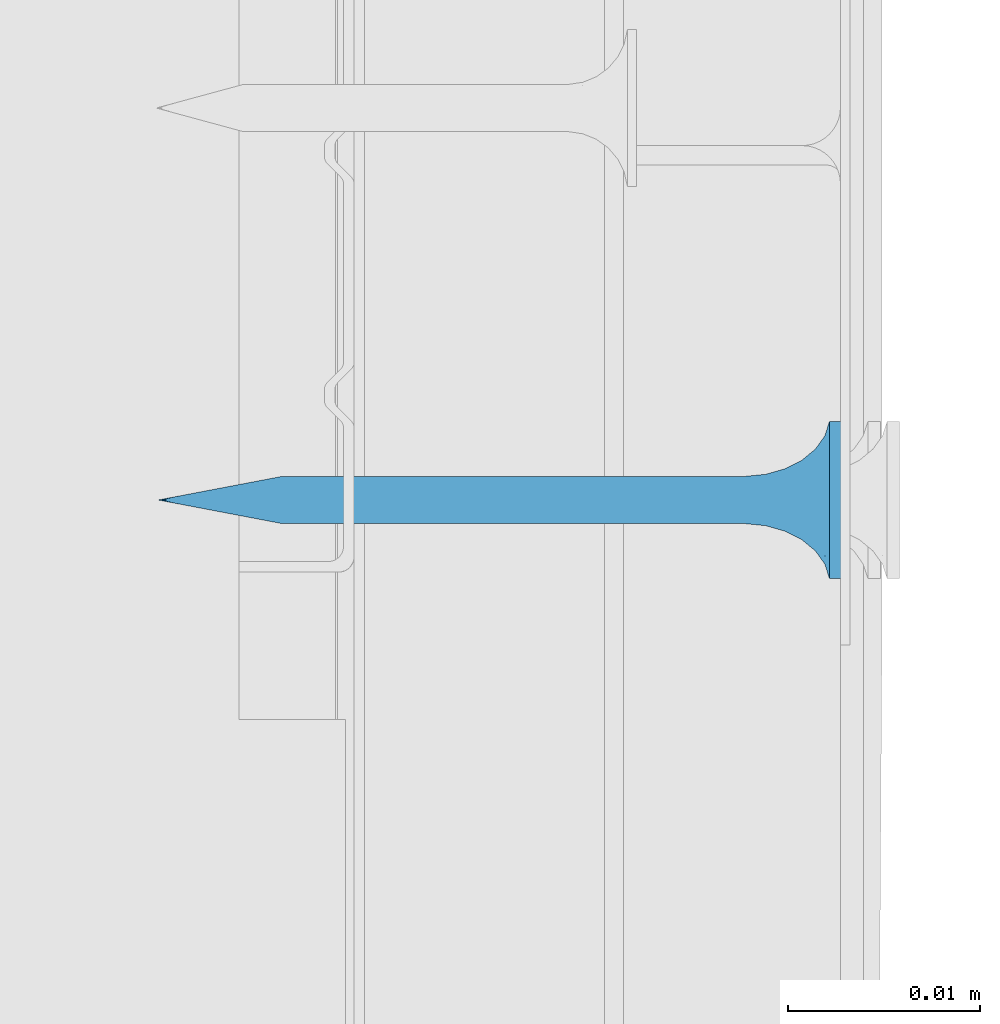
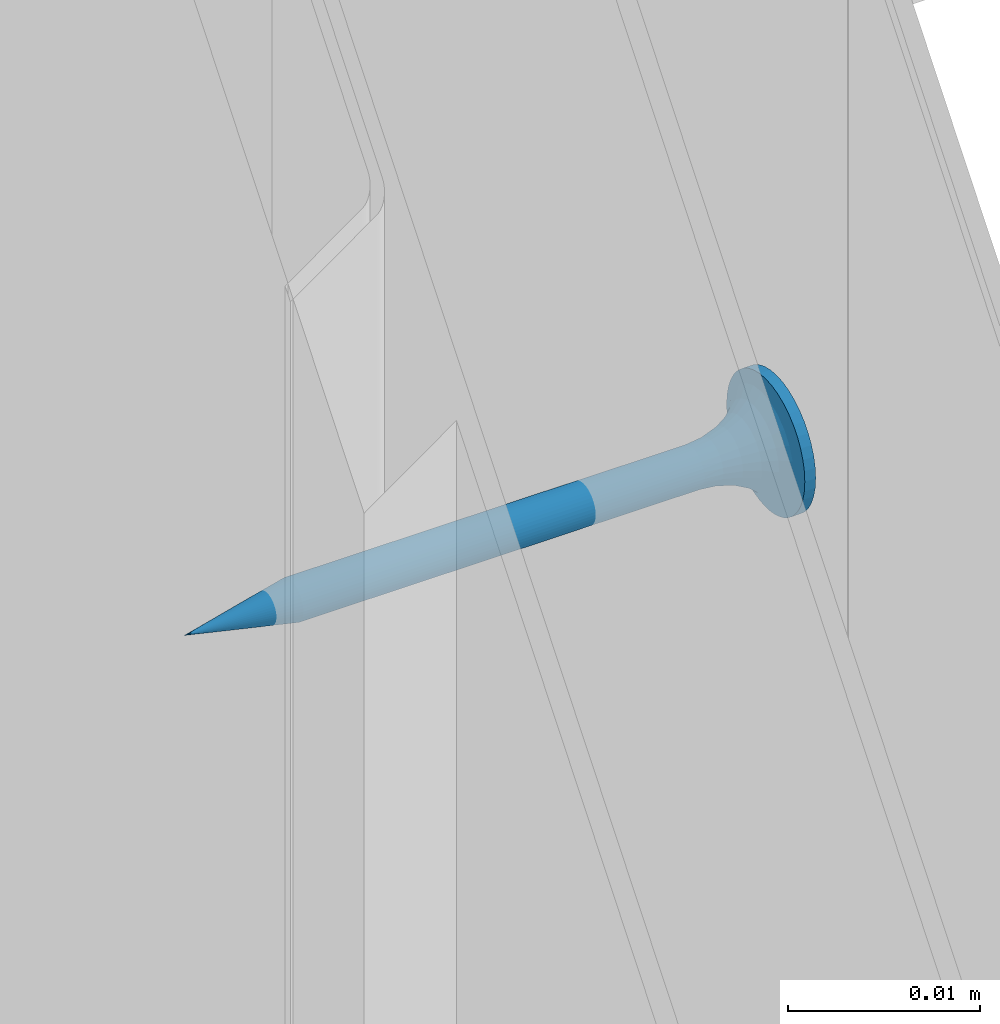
# One storey, part 53 of 89: 1 wall.
"""IFC2X3 building model written with IfcOpenShell, lengths in millimetres."""

from ifc_helpers import new_model, entity, si_unit, converted_unit, direction, frame, origin, origin_with_axes, place, context, project, spatial, faceted_brep, element, save


model = new_model("IFC2X3")

# Units and contexts
model_context = context("Model", 3, precision=1e-05, world=origin(), true_north=direction((0.0, 1.0, 0.0)))
ifc_project = project(units=[si_unit("LENGTHUNIT", "METRE", prefix="MILLI"), si_unit("AREAUNIT", "SQUARE_METRE"), si_unit("VOLUMEUNIT", "CUBIC_METRE"), converted_unit("PLANEANGLEUNIT", "DEGREE", entity("IfcPlaneAngleMeasure", 0.01745), si_unit("PLANEANGLEUNIT", "RADIAN"), dimensions=[0, 0, 0, 0, 0, 0, 0]), si_unit("SOLIDANGLEUNIT", "STERADIAN"), si_unit("MASSUNIT", "GRAM"), si_unit("TIMEUNIT", "SECOND"), si_unit("THERMODYNAMICTEMPERATUREUNIT", "DEGREE_CELSIUS"), si_unit("LUMINOUSINTENSITYUNIT", "LUMEN")], contexts=[model_context])

# Site, building, storey
site_placement = place(None, origin_with_axes())
site = spatial("IfcSite", under=ifc_project, at=site_placement, Name="Default Site", CompositionType="ELEMENT")
building_placement = place(site_placement, origin_with_axes())
building = spatial("IfcBuilding", under=site, at=building_placement, Name="Default Building", CompositionType="ELEMENT")
storey_placement = place(building_placement, origin_with_axes())
storey = spatial("IfcBuildingStorey", under=building, at=storey_placement, Name="Default Building Storey", CompositionType="ELEMENT", Elevation=0.0)

# Wall
wall_placement = place(storey_placement, frame((-1966.90239238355, 1534.934940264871, -73.15795859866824), z_axis=(0.0, 0.0, 1.0), x_axis=(3.748251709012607e-13, 1.0, 0.0)))
element("IfcWall", 1, at=wall_placement, inside=storey, Name="Wkręt RIGIPS TN 35", context=model_context, shape_type="Brep", body=[
    faceted_brep([(-138.5557071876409, -4828.206294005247, 555.2413100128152), (-138.5557071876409, -4804.093757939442, 555.2413100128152), (-138.6296059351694, -4804.093757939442, 555.4197173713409), (-138.6296059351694, -4828.206294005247, 555.4197173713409), (-138.329396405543, -4828.206294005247, 554.9298199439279), (-138.329396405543, -4804.093757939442, 554.9298199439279), (-138.4548091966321, -4804.093757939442, 555.0766594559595), (-138.4548091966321, -4828.206294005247, 555.0766594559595), (-137.0789337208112, -4828.206294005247, 556.9703895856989), (-137.0789337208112, -4804.093757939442, 556.9703895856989), (-136.9005263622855, -4804.093757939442, 556.8964908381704), (-136.9005263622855, -4828.206294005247, 556.8964908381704), (-138.6296059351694, -4804.093757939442, 556.1802826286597), (-138.6296059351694, -4828.206294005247, 556.1802826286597), (-138.6746858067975, -4828.206294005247, 555.9925114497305), (-138.6746858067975, -4804.093757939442, 555.9925114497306), (-138.0179063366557, -4828.206294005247, 554.7035091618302), (-138.0179063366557, -4804.093757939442, 554.7035091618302), (-138.1825568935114, -4804.093757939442, 554.8044071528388), (-138.1825568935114, -4828.206294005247, 554.8044071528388), (-137.83949897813, -4828.206294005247, 554.6296104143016), (-137.83949897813, -4804.093757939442, 554.6296104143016), (-137.4592163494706, -4804.093757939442, 554.5693795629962), (-137.4592163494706, -4828.206294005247, 554.5693795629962), (-137.2667048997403, -4828.206294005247, 554.5845305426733), (-137.2667048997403, -4804.093757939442, 554.5845305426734), (-136.9005263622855, -4804.093757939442, 554.7035091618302), (-136.9005263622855, -4828.206294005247, 554.7035091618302), (-136.7358758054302, -4828.206294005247, 554.8044071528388), (-136.7358758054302, -4804.093757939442, 554.8044071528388), (-138.0179063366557, -4828.206294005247, 556.8964908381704), (-138.0179063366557, -4804.093757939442, 556.8964908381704), (-137.83949897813, -4804.093757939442, 556.9703895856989), (-137.83949897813, -4828.206294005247, 556.9703895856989), (-136.3627255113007, -4828.206294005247, 556.3586899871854), (-136.3627255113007, -4804.093757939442, 556.3586899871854), (-136.2888267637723, -4804.093757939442, 556.1802826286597), (-136.2888267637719, -4828.206294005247, 556.1802826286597), (-138.329396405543, -4828.206294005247, 556.6701800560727), (-138.329396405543, -4804.093757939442, 556.6701800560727), (-138.1825568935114, -4804.093757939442, 556.7955928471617), (-138.1825568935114, -4828.206294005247, 556.7955928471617), (-138.6746858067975, -4804.093757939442, 555.60748855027), (-138.6746858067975, -4828.206294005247, 555.60748855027), (-137.2667048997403, -4828.206294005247, 557.0154694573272), (-137.2667048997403, -4804.093757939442, 557.0154694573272), (-136.2888267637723, -4804.093757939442, 555.4197173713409), (-136.2888267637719, -4828.206294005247, 555.4197173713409), (-136.2437468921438, -4828.206294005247, 555.60748855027), (-136.2437468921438, -4804.093757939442, 555.60748855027), (-136.5890362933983, -4828.206294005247, 554.9298199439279), (-136.5890362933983, -4804.093757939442, 554.9298199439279), (-137.651727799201, -4828.206294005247, 554.5845305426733), (-137.651727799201, -4804.093757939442, 554.5845305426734), (-136.4636235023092, -4828.206294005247, 555.0766594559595), (-136.4636235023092, -4804.093757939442, 555.0766594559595), (-136.7358758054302, -4804.093757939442, 556.7955928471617), (-136.7358758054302, -4828.206294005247, 556.7955928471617), (-136.3627255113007, -4804.093757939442, 555.2413100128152), (-136.3627255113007, -4828.206294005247, 555.2413100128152), (-136.2437468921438, -4828.206294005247, 555.9925114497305), (-136.2437468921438, -4804.093757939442, 555.9925114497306), (-136.2285959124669, -4804.093757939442, 555.8000000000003), (-136.2285959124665, -4828.206294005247, 555.8000000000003), (-138.6898367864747, -4828.206294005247, 555.8000000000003), (-138.6898367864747, -4804.093757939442, 555.8000000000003), (-136.5890362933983, -4828.206294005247, 556.6701800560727), (-136.5890362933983, -4804.093757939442, 556.6701800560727), (-136.4636235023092, -4804.093757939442, 556.5233405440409), (-136.4636235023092, -4828.206294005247, 556.5233405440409), (-137.0789337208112, -4804.093757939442, 554.6296104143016), (-137.0789337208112, -4828.206294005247, 554.6296104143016), (-137.4592163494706, -4804.093757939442, 557.0306204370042), (-137.4592163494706, -4828.206294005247, 557.0306204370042), (-137.651727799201, -4828.206294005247, 557.0154694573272), (-137.651727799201, -4804.093757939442, 557.0154694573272), (-138.5557071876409, -4804.093757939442, 556.3586899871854), (-138.5557071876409, -4828.206294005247, 556.3586899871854), (-138.4548091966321, -4828.206294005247, 556.5233405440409), (-138.4548091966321, -4804.093757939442, 556.5233405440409), (-141.5377463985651, -4832.598051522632, 555.8000000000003), (-141.5377463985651, -4833.259713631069, 555.8000000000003), (-141.4875329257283, -4833.259713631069, 555.1619773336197), (-141.4875329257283, -4832.598051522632, 555.1619773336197), (-141.3381289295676, -4833.259713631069, 554.5396649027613), (-141.3381289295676, -4832.598051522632, 554.5396649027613), (-141.0932132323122, -4833.259713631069, 553.9483861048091), (-141.0932132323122, -4832.598051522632, 553.9483861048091), (-140.7588164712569, -4833.259713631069, 553.4027001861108), (-140.7588164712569, -4832.598051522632, 553.4027001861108), (-140.3431726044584, -4833.259713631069, 552.9160437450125), (-140.4541727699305, -4832.598051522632, 553.0314907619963), (-140.1080097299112, -4832.598051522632, 552.6986614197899), (-139.8565161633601, -4833.259713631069, 552.500399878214), (-139.7251262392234, -4832.598051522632, 552.4088262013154), (-139.3108302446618, -4833.259713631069, 552.1660031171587), (-139.3108302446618, -4832.598051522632, 552.1660031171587), (-138.8708651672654, -4832.598051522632, 551.9735584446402), (-138.7195514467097, -4833.259713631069, 551.9210874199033), (-138.4113302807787, -4832.598051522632, 551.8341600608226), (-137.9385961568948, -4832.598051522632, 551.7497404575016), (-138.0972390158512, -4833.259713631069, 551.7716834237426), (-137.4592163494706, -4833.259713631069, 551.7214699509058), (-137.4592163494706, -4832.598051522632, 551.7214699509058), (-136.8211936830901, -4833.259713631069, 551.7716834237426), (-136.8211936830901, -4832.598051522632, 551.7716834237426), (-136.1988812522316, -4833.259713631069, 551.9210874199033), (-136.1988812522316, -4832.598051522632, 551.9210874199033), (-135.6076024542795, -4833.259713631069, 552.1660031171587), (-135.6076024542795, -4832.598051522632, 552.1660031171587), (-135.0619165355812, -4833.259713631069, 552.500399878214), (-135.0619165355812, -4832.598051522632, 552.500399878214), (-134.5752600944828, -4833.259713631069, 552.9160437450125), (-134.5752600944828, -4832.598051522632, 552.9160437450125), (-134.1596162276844, -4833.259713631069, 553.4027001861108), (-134.1596162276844, -4832.598051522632, 553.4027001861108), (-133.8252194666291, -4833.259713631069, 553.9483861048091), (-133.8252194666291, -4832.598051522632, 553.9483861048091), (-133.5803037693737, -4833.259713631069, 554.5396649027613), (-133.5803037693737, -4832.598051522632, 554.5396649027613), (-133.430899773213, -4833.259713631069, 556.4380226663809), (-133.430899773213, -4832.598051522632, 556.4380226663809), (-133.3806863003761, -4832.598051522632, 555.8000000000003), (-133.3806863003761, -4833.259713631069, 555.8000000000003), (-133.430899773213, -4832.598051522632, 555.1619773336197), (-133.430899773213, -4833.259713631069, 555.1619773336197), (-133.5803037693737, -4833.259713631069, 557.0603350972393), (-133.5803037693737, -4832.598051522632, 557.0603350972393), (-133.8252194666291, -4833.259713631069, 557.6516138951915), (-133.8252194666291, -4832.598051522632, 557.6516138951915), (-134.1596162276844, -4833.259713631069, 558.1972998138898), (-134.1596162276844, -4832.598051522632, 558.1972998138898), (-134.5752600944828, -4833.259713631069, 558.6839562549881), (-134.5752600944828, -4832.598051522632, 558.6839562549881), (-135.0619165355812, -4833.259713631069, 559.0996001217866), (-135.0619165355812, -4832.598051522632, 559.0996001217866), (-135.6076024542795, -4833.259713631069, 559.4339968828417), (-135.6076024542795, -4832.598051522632, 559.4339968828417), (-136.1988812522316, -4833.259713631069, 559.6789125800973), (-136.1988812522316, -4832.598051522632, 559.6789125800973), (-136.8211936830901, -4833.259713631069, 559.8283165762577), (-136.8211936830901, -4832.598051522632, 559.8283165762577), (-137.4592163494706, -4833.259713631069, 559.8785300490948), (-137.4592163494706, -4832.598051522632, 559.8785300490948), (-138.0972390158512, -4833.259713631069, 559.8283165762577), (-138.0972390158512, -4832.598051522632, 559.8283165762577), (-138.7195514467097, -4833.259713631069, 559.6789125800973), (-138.7195514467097, -4832.598051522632, 559.6789125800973), (-139.3108302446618, -4833.259713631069, 559.4339968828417), (-139.3108302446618, -4832.598051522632, 559.4339968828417), (-139.8565161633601, -4833.259713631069, 559.0996001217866), (-139.8565161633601, -4832.598051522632, 559.0996001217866), (-140.3431726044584, -4833.259713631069, 558.6839562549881), (-140.3431726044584, -4832.598051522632, 558.6839562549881), (-140.7588164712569, -4833.259713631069, 558.1972998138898), (-140.7588164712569, -4832.598051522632, 558.1972998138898), (-141.0932132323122, -4833.259713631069, 557.6516138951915), (-141.0932132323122, -4832.598051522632, 557.6516138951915), (-141.3381289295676, -4833.259713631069, 557.0603350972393), (-141.3381289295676, -4832.598051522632, 557.0603350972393), (-141.4875329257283, -4833.259713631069, 556.4380226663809), (-141.4875329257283, -4832.598051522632, 556.4380226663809), (-137.8060615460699, -4829.281368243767, 554.5055560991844), (-137.4592163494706, -4829.281368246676, 554.4598930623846), (-138.1292698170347, -4829.281368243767, 554.6394333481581), (-138.4068150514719, -4829.281368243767, 554.8524012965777), (-138.6197830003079, -4829.281368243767, 555.1299465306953), (-138.7536602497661, -4829.281368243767, 555.4531548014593), (-138.7993232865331, -4829.281368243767, 555.7999999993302), (-138.753660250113, -4829.281368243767, 556.1468451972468), (-138.6197830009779, -4829.281368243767, 556.4700534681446), (-138.4068150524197, -4829.281368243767, 556.7475987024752), (-138.1292698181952, -4829.281368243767, 556.9605666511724), (-137.8060615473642, -4829.281368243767, 557.0944439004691), (-137.4592163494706, -4829.281368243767, 557.1401069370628), (-137.112371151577, -4829.281368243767, 557.0944439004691), (-136.7891628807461, -4829.281368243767, 556.9605666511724), (-136.5116176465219, -4829.281368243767, 556.7475987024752), (-136.2986496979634, -4829.281368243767, 556.4700534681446), (-136.1647724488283, -4829.281368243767, 556.1468451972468), (-136.1191094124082, -4829.281368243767, 555.7999999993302), (-136.1647724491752, -4829.281368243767, 555.4531548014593), (-136.2986496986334, -4829.281368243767, 555.1299465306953), (-136.5116176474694, -4829.281368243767, 554.8524012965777), (-136.7891628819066, -4829.281368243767, 554.6394333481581), (-137.1123711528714, -4829.281368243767, 554.5055560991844), (-137.4592163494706, -4830.288222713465, 554.1737111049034), (-137.8801308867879, -4830.288222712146, 554.229125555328), (-138.2723607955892, -4830.288222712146, 554.3915925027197), (-138.6091762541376, -4830.288222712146, 554.6500400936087), (-138.8676238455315, -4830.288222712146, 554.9868555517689), (-139.0300907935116, -4830.288222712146, 555.3790854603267), (-139.0855052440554, -4830.288222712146, 555.7999999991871), (-139.0300907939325, -4830.288222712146, 556.220914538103), (-138.8676238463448, -4830.288222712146, 556.6131444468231), (-138.6091762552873, -4830.288222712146, 556.9499599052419), (-138.2723607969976, -4830.288222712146, 557.2084074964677), (-137.8801308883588, -4830.288222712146, 557.3708744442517), (-137.4592163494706, -4830.288222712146, 557.426288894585), (-137.0383018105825, -4830.288222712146, 557.3708744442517), (-136.6460719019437, -4830.288222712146, 557.2084074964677), (-136.309256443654, -4830.288222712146, 556.9499599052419), (-136.0508088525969, -4830.288222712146, 556.6131444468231), (-135.8883419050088, -4830.288222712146, 556.220914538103), (-135.8329274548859, -4830.288222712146, 555.7999999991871), (-135.8883419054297, -4830.288222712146, 555.3790854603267), (-136.0508088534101, -4830.288222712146, 554.9868555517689), (-136.309256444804, -4830.288222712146, 554.6500400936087), (-136.6460719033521, -4830.288222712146, 554.3915925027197), (-137.0383018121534, -4830.288222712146, 554.229125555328), (-137.4592163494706, -4831.168773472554, 553.7273431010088), (-137.9956594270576, -4831.168773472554, 553.7979671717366), (-138.4955447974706, -4831.168773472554, 554.0050264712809), (-138.9248060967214, -4831.168773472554, 554.3344102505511), (-139.2541898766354, -4831.168773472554, 554.763671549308), (-139.4612491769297, -4831.168773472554, 555.2635569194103), (-139.5318732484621, -4831.168773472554, 555.799999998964), (-139.461249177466, -4831.168773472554, 556.3364430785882), (-139.2541898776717, -4831.168773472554, 556.8363284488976), (-138.9248060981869, -4831.168773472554, 557.2655897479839), (-138.4955447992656, -4831.168773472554, 557.594973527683), (-137.9956594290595, -4831.168773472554, 557.8020328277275), (-137.4592163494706, -4831.168773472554, 557.8726568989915), (-136.9227732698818, -4831.168773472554, 557.8020328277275), (-136.4228878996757, -4831.168773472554, 557.594973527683), (-135.9936266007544, -4831.168773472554, 557.2655897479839), (-135.6642428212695, -4831.168773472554, 556.8363284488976), (-135.4571835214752, -4831.168773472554, 556.3364430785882), (-135.3865594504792, -4831.168773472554, 555.799999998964), (-135.4571835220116, -4831.168773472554, 555.2635569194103), (-135.6642428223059, -4831.168773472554, 554.763671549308), (-135.9936266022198, -4831.168773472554, 554.3344102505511), (-136.4228879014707, -4831.168773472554, 554.0050264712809), (-136.9227732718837, -4831.168773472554, 553.7979671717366), (-137.4592163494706, -4831.872222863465, 553.1465393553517), (-138.1459824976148, -4831.872222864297, 553.2369538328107), (-138.7859466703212, -4831.872222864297, 553.5020356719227), (-139.3354963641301, -4831.872222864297, 553.9237199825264), (-139.7571806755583, -4831.872222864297, 554.4732696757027), (-140.02226251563, -4831.872222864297, 555.1132338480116), (-140.1126769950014, -4831.872222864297, 555.7999999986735), (-140.0222625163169, -4831.872222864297, 556.4867661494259), (-139.7571806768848, -4831.872222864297, 557.1267303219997), (-139.3354963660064, -4831.872222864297, 557.6762800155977), (-138.785946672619, -4831.872222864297, 558.097964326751), (-138.1459825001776, -4831.872222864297, 558.363046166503), (-137.4592163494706, -4831.872222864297, 558.4534606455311), (-136.7724501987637, -4831.872222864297, 558.363046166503), (-136.1324860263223, -4831.872222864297, 558.097964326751), (-135.5829363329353, -4831.872222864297, 557.6762800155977), (-135.1612520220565, -4831.872222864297, 557.1267303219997), (-134.8961701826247, -4831.872222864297, 556.4867661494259), (-134.8057557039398, -4831.872222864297, 555.7999999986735), (-134.8961701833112, -4831.872222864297, 555.1132338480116), (-135.161252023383, -4831.872222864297, 554.4732696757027), (-135.5829363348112, -4831.872222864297, 553.9237199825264), (-136.1324860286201, -4831.872222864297, 553.5020356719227), (-136.7724502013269, -4831.872222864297, 553.2369538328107), (-137.4592163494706, -4832.357989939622, 552.4648055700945), (-138.3224281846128, -4832.357989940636, 552.578449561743), (-139.1268135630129, -4832.357989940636, 552.9116368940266), (-139.8175549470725, -4832.357989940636, 553.4416613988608), (-140.3475794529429, -4832.357989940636, 554.1324027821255), (-140.6807667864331, -4832.357989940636, 554.936788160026), (-140.7944107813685, -4832.357989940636, 555.7999999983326), (-140.6807667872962, -4832.357989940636, 556.663211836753), (-140.3475794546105, -4832.357989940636, 557.4675972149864), (-139.817554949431, -4832.357989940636, 558.1583385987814), (-139.1268135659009, -4832.357989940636, 558.6883631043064), (-138.3224281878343, -4832.357989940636, 559.0215504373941), (-137.4592163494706, -4832.357989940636, 559.1351944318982), (-136.5960045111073, -4832.357989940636, 559.0215504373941), (-135.7916191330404, -4832.357989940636, 558.6883631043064), (-135.1008777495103, -4832.357989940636, 558.1583385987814), (-134.5708532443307, -4832.357989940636, 557.4675972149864), (-134.2376659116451, -4832.357989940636, 556.663211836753), (-134.1240219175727, -4832.357989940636, 555.7999999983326), (-134.2376659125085, -4832.357989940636, 554.936788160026), (-134.5708532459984, -4832.357989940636, 554.1324027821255), (-135.1008777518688, -4832.357989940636, 553.4416613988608), (-135.7916191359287, -4832.357989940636, 552.9116368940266), (-136.5960045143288, -4832.357989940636, 552.578449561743), (-137.4592163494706, -4797.627063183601, 555.8000000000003), (-139.9592163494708, -4833.259713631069, 556.3000000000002), (-137.9592163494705, -4833.259713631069, 556.3000000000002), (-139.9592163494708, -4833.259713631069, 555.3000000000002), (-137.9592163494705, -4833.259713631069, 555.3000000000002), (-137.9592163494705, -4833.259713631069, 553.3000000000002), (-136.9592163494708, -4833.259713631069, 553.3000000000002), (-136.9592163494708, -4833.259713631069, 555.3000000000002), (-134.9592163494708, -4833.259713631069, 555.3000000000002), (-134.9592163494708, -4833.259713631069, 556.3000000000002), (-136.9592163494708, -4833.259713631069, 556.3000000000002), (-136.9592163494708, -4833.259713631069, 558.3000000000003), (-137.9592163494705, -4833.259713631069, 558.3000000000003), (-136.9592163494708, -4831.988379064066, 556.3000000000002), (-134.9592163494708, -4831.988379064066, 556.3000000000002), (-134.9592163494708, -4831.988379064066, 555.3000000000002), (-136.9592163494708, -4831.988379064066, 555.3000000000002), (-136.9592163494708, -4831.988379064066, 553.3000000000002), (-137.9592163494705, -4831.988379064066, 553.3000000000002), (-137.9592163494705, -4831.988379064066, 555.3000000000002), (-139.9592163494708, -4831.988379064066, 555.3000000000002), (-139.9592163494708, -4831.988379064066, 556.3000000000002), (-137.9592163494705, -4831.988379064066, 556.3000000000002), (-137.9592163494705, -4831.988379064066, 558.3000000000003), (-136.9592163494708, -4831.988379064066, 558.3000000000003)], [[[0, 1, 2, 3]], [[4, 5, 6, 7]], [[8, 9, 10, 11]], [[12, 13, 14, 15]], [[1, 0, 7, 6]], [[16, 17, 18, 19]], [[20, 21, 17, 16]], [[22, 23, 24, 25]], [[26, 27, 28, 29]], [[30, 31, 32, 33]], [[34, 35, 36, 37]], [[38, 39, 40, 41]], [[3, 2, 42, 43]], [[9, 8, 44, 45]], [[46, 47, 48, 49]], [[50, 51, 29, 28]], [[5, 4, 19, 18]], [[21, 20, 52, 53]], [[23, 22, 53, 52]], [[51, 50, 54, 55]], [[11, 10, 56, 57]], [[47, 46, 58, 59]], [[60, 61, 62, 63]], [[64, 65, 15, 14]], [[37, 36, 61, 60]], [[66, 67, 68, 69]], [[27, 26, 70, 71]], [[71, 70, 25, 24]], [[59, 58, 55, 54]], [[63, 62, 49, 48]], [[35, 34, 69, 68]], [[67, 66, 57, 56]], [[72, 73, 74, 75]], [[13, 12, 76, 77]], [[73, 72, 45, 44]], [[39, 38, 78, 79]], [[33, 32, 75, 74]], [[77, 76, 79, 78]], [[31, 30, 41, 40]], [[65, 64, 43, 42]], [[80, 81, 82, 83]], [[84, 85, 83, 82]], [[86, 87, 85, 84]], [[87, 86, 88, 89]], [[88, 90, 89]], [[90, 91, 89]], [[92, 91, 93]], [[91, 90, 93]], [[93, 94, 92]], [[93, 95, 94]], [[95, 96, 94]], [[97, 96, 98]], [[96, 95, 98]], [[98, 99, 97]], [[100, 99, 101]], [[99, 98, 101]], [[101, 102, 100]], [[102, 103, 100]], [[103, 102, 104, 105]], [[106, 107, 105, 104]], [[108, 109, 107, 106]], [[109, 108, 110, 111]], [[112, 113, 111, 110]], [[113, 112, 114, 115]], [[116, 117, 115, 114]], [[118, 119, 117, 116]], [[120, 121, 122, 123]], [[123, 122, 124, 125]], [[119, 118, 125, 124]], [[126, 127, 121, 120]], [[128, 129, 127, 126]], [[129, 128, 130, 131]], [[132, 133, 131, 130]], [[133, 132, 134, 135]], [[136, 137, 135, 134]], [[138, 139, 137, 136]], [[139, 138, 140, 141]], [[142, 143, 141, 140]], [[143, 142, 144, 145]], [[146, 147, 145, 144]], [[148, 149, 147, 146]], [[149, 148, 150, 151]], [[152, 153, 151, 150]], [[153, 152, 154, 155]], [[156, 157, 155, 154]], [[158, 159, 157, 156]], [[159, 158, 160, 161]], [[81, 80, 161, 160]], [[162, 23, 52]], [[162, 163, 23]], [[52, 20, 162]], [[162, 20, 164]], [[16, 164, 20]], [[164, 16, 19]], [[19, 165, 164]], [[19, 4, 165]], [[166, 4, 7]], [[166, 165, 4]], [[7, 0, 166]], [[166, 0, 167]], [[3, 167, 0]], [[167, 3, 43]], [[43, 168, 167]], [[43, 64, 168]], [[169, 64, 14]], [[169, 168, 64]], [[14, 13, 169]], [[169, 13, 170]], [[77, 170, 13]], [[170, 77, 78]], [[78, 171, 170]], [[78, 38, 171]], [[172, 38, 41]], [[172, 171, 38]], [[41, 30, 172]], [[172, 30, 173]], [[33, 173, 30]], [[173, 33, 74]], [[74, 174, 173]], [[74, 73, 174]], [[175, 73, 44]], [[175, 174, 73]], [[44, 8, 175]], [[175, 8, 176]], [[11, 176, 8]], [[176, 11, 57]], [[57, 177, 176]], [[57, 66, 177]], [[178, 66, 69]], [[178, 177, 66]], [[69, 34, 178]], [[178, 34, 179]], [[37, 179, 34]], [[179, 37, 60]], [[60, 180, 179]], [[60, 63, 180]], [[181, 63, 48]], [[181, 180, 63]], [[48, 47, 181]], [[181, 47, 182]], [[59, 182, 47]], [[182, 59, 54]], [[54, 183, 182]], [[54, 50, 183]], [[184, 50, 28]], [[184, 183, 50]], [[28, 27, 184]], [[184, 27, 185]], [[71, 185, 27]], [[185, 71, 24]], [[24, 163, 185]], [[24, 23, 163]], [[186, 163, 187]], [[162, 187, 163]], [[164, 188, 187, 162]], [[165, 189, 188, 164]], [[166, 190, 189, 165]], [[167, 191, 190, 166]], [[168, 192, 191, 167]], [[169, 193, 192, 168]], [[170, 194, 193, 169]], [[171, 195, 194, 170]], [[172, 196, 195, 171]], [[173, 197, 196, 172]], [[174, 198, 197, 173]], [[175, 199, 198, 174]], [[176, 200, 199, 175]], [[177, 201, 200, 176]], [[178, 202, 201, 177]], [[179, 203, 202, 178]], [[180, 204, 203, 179]], [[181, 205, 204, 180]], [[182, 206, 205, 181]], [[183, 207, 206, 182]], [[184, 208, 207, 183]], [[185, 209, 208, 184]], [[185, 163, 209]], [[186, 209, 163]], [[210, 186, 211]], [[187, 211, 186]], [[188, 212, 211, 187]], [[189, 213, 212, 188]], [[190, 214, 213, 189]], [[191, 215, 214, 190]], [[192, 216, 215, 191]], [[193, 217, 216, 192]], [[194, 218, 217, 193]], [[195, 219, 218, 194]], [[196, 220, 219, 195]], [[197, 221, 220, 196]], [[198, 222, 221, 197]], [[199, 223, 222, 198]], [[200, 224, 223, 199]], [[201, 225, 224, 200]], [[202, 226, 225, 201]], [[203, 227, 226, 202]], [[204, 228, 227, 203]], [[205, 229, 228, 204]], [[206, 230, 229, 205]], [[207, 231, 230, 206]], [[208, 232, 231, 207]], [[209, 233, 232, 208]], [[209, 186, 233]], [[210, 233, 186]], [[234, 210, 235]], [[211, 235, 210]], [[212, 236, 235, 211]], [[213, 237, 236, 212]], [[214, 238, 237, 213]], [[215, 239, 238, 214]], [[216, 240, 239, 215]], [[217, 241, 240, 216]], [[218, 242, 241, 217]], [[219, 243, 242, 218]], [[220, 244, 243, 219]], [[221, 245, 244, 220]], [[222, 246, 245, 221]], [[223, 247, 246, 222]], [[224, 248, 247, 223]], [[225, 249, 248, 224]], [[226, 250, 249, 225]], [[227, 251, 250, 226]], [[228, 252, 251, 227]], [[229, 253, 252, 228]], [[230, 254, 253, 229]], [[231, 255, 254, 230]], [[232, 256, 255, 231]], [[233, 257, 256, 232]], [[233, 210, 257]], [[234, 257, 210]], [[258, 99, 100]], [[258, 259, 99]], [[100, 103, 258]], [[258, 234, 259]], [[235, 259, 234]], [[259, 96, 97]], [[259, 260, 96]], [[97, 99, 259]], [[236, 260, 259, 235]], [[261, 91, 92]], [[260, 92, 94]], [[260, 261, 92]], [[94, 96, 260]], [[237, 261, 260, 236]], [[262, 87, 89]], [[89, 261, 262]], [[89, 91, 261]], [[238, 262, 261, 237]], [[85, 87, 263]], [[262, 263, 87]], [[239, 263, 262, 238]], [[263, 80, 83]], [[263, 264, 80]], [[83, 85, 263]], [[240, 264, 263, 239]], [[265, 159, 161]], [[161, 264, 265]], [[161, 80, 264]], [[241, 265, 264, 240]], [[265, 266, 157, 159]], [[242, 266, 265, 241]], [[266, 153, 155]], [[266, 267, 153]], [[155, 157, 266]], [[243, 267, 266, 242]], [[268, 149, 151]], [[151, 267, 268]], [[151, 153, 267]], [[244, 268, 267, 243]], [[268, 269, 147, 149]], [[245, 269, 268, 244]], [[269, 143, 145]], [[269, 270, 143]], [[145, 147, 269]], [[246, 270, 269, 245]], [[271, 139, 141]], [[141, 270, 271]], [[141, 143, 270]], [[247, 271, 270, 246]], [[271, 272, 137, 139]], [[248, 272, 271, 247]], [[272, 133, 135]], [[272, 273, 133]], [[135, 137, 272]], [[249, 273, 272, 248]], [[274, 129, 131]], [[131, 273, 274]], [[131, 133, 273]], [[250, 274, 273, 249]], [[274, 275, 127, 129]], [[251, 275, 274, 250]], [[275, 122, 121]], [[275, 276, 122]], [[121, 127, 275]], [[252, 276, 275, 251]], [[277, 119, 124]], [[124, 276, 277]], [[124, 122, 276]], [[253, 277, 276, 252]], [[117, 119, 278]], [[277, 278, 119]], [[254, 278, 277, 253]], [[278, 113, 115]], [[278, 279, 113]], [[115, 117, 278]], [[255, 279, 278, 254]], [[280, 109, 111]], [[111, 279, 280]], [[111, 113, 279]], [[256, 280, 279, 255]], [[107, 109, 281]], [[280, 281, 109]], [[257, 281, 280, 256]], [[257, 234, 281]], [[258, 281, 234]], [[281, 103, 105]], [[281, 258, 103]], [[105, 107, 281]], [[42, 2, 282]], [[282, 65, 42]], [[2, 1, 282]], [[6, 5, 282]], [[282, 1, 6]], [[18, 17, 282]], [[282, 5, 18]], [[17, 21, 282]], [[53, 22, 282]], [[282, 21, 53]], [[25, 70, 282]], [[282, 22, 25]], [[70, 26, 282]], [[29, 51, 282]], [[282, 26, 29]], [[55, 58, 282]], [[282, 51, 55]], [[58, 46, 282]], [[49, 62, 282]], [[282, 46, 49]], [[61, 36, 282]], [[282, 62, 61]], [[36, 35, 282]], [[68, 67, 282]], [[282, 35, 68]], [[56, 10, 282]], [[282, 67, 56]], [[10, 9, 282]], [[45, 72, 282]], [[282, 9, 45]], [[75, 32, 282]], [[282, 72, 75]], [[32, 31, 282]], [[40, 39, 282]], [[282, 31, 40]], [[79, 76, 282]], [[282, 39, 79]], [[76, 12, 282]], [[15, 65, 282]], [[282, 12, 15]], [[283, 156, 154, 284]], [[283, 285, 286, 287, 288, 289, 290, 291, 292, 293, 294, 284, 154, 152, 150, 148, 146, 144, 142, 140, 138, 136, 134, 132, 130, 128, 126, 120, 123, 125, 118, 116, 114, 112, 110, 108, 106, 104, 102, 101, 98, 95, 93, 90, 88, 86, 84, 82, 81, 160, 158, 156]], [[295, 296, 297, 298, 299, 300, 301, 302, 303, 304, 305, 306]], [[297, 290, 289, 298]], [[296, 291, 290, 297]], [[295, 292, 291, 296]], [[306, 293, 292, 295]], [[305, 294, 293, 306]], [[304, 284, 294, 305]], [[303, 283, 284, 304]], [[302, 285, 283, 303]], [[301, 286, 285, 302]], [[300, 287, 286, 301]], [[299, 288, 287, 300]], [[298, 289, 288, 299]]]),
])

save(model, "model.ifc")
